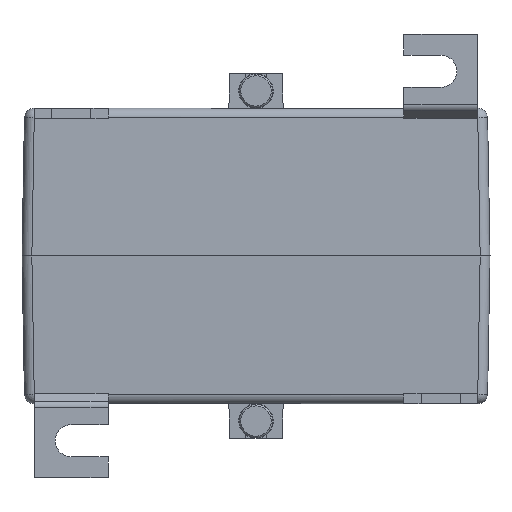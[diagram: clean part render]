
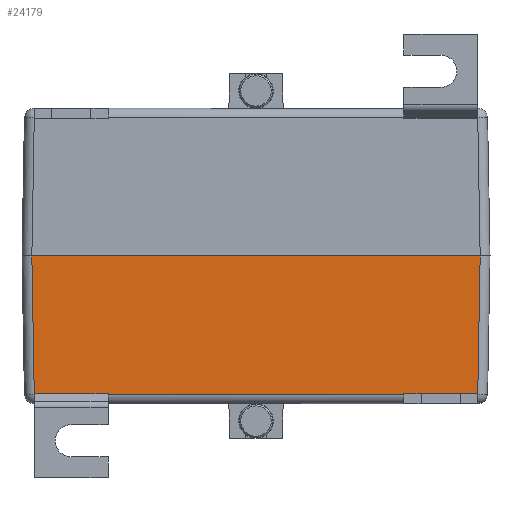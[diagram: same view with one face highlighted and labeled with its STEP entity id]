
A CAD part, front view. The second image highlights one B-rep face of the part: STEP entity #24179.
In plain terms, the highlighted planar face has unit normal (0, -1, -0.018) as drawn and (0, -1, 0.017) by its records, which use the part's own axes.
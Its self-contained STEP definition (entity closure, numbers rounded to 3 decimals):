
#4019 = DIRECTION ( 'NONE',  ( -1., 0., 0. ) ) ;
#4023 = VECTOR ( 'NONE', #4019, 1000. ) ;
#4171 = DIRECTION ( 'NONE',  ( -1., 0., 0. ) ) ;
#4172 = VECTOR ( 'NONE', #4171, 1000. ) ;
#4174 = CARTESIAN_POINT ( 'NONE',  ( -47.5, -49.511, 28.035 ) ) ;
#4181 = LINE ( 'NONE', #4174, #4172 ) ;
#4243 = CARTESIAN_POINT ( 'NONE',  ( -47.5, -49.511, 28.035 ) ) ;
#4244 = LINE ( 'NONE', #4243, #4023 ) ;
#4276 = CARTESIAN_POINT ( 'NONE',  ( 30.017, -49.511, 28.035 ) ) ;
#4296 = CARTESIAN_POINT ( 'NONE',  ( 45.011, -49.511, 28.035 ) ) ;
#4335 = CARTESIAN_POINT ( 'NONE',  ( -30.017, -49.511, 28.035 ) ) ;
#4341 = CARTESIAN_POINT ( 'NONE',  ( 44.983, -49.511, 28.035 ) ) ;
#10690 = EDGE_CURVE ( 'NONE', #10735, #10761, #4181, .T. ) ;
#10718 = EDGE_CURVE ( 'NONE', #10720, #10769, #4244, .T. ) ;
#10720 = VERTEX_POINT ( 'NONE', #4276 ) ;
#10735 = VERTEX_POINT ( 'NONE', #4296 ) ;
#10761 = VERTEX_POINT ( 'NONE', #4341 ) ;
#10769 = VERTEX_POINT ( 'NONE', #4335 ) ;
#15613 = DIRECTION ( 'NONE',  ( -0.009, -0.017, -1. ) ) ;
#15614 = VECTOR ( 'NONE', #15613, 1000. ) ;
#15615 = CARTESIAN_POINT ( 'NONE',  ( 44.731, -50.014, -0.805 ) ) ;
#15616 = LINE ( 'NONE', #15615, #15614 ) ;
#15618 = CARTESIAN_POINT ( 'NONE',  ( 44.982, -49.511, 27.988 ) ) ;
#15624 = CARTESIAN_POINT ( 'NONE',  ( 30.018, -49.511, 27.988 ) ) ;
#15631 = CARTESIAN_POINT ( 'NONE',  ( -30.018, -49.511, 27.988 ) ) ;
#15633 = CARTESIAN_POINT ( 'NONE',  ( -45.011, -49.511, 28.035 ) ) ;
#15670 = CARTESIAN_POINT ( 'NONE',  ( 45.472, -49.972, 1.622 ) ) ;
#15671 = LINE ( 'NONE', #15670, #15721 ) ;
#15706 = CARTESIAN_POINT ( 'NONE',  ( -47.5, -49.511, 27.988 ) ) ;
#15707 = LINE ( 'NONE', #15706, #15753 ) ;
#15714 = CARTESIAN_POINT ( 'NONE',  ( -44.983, -49.511, 28.035 ) ) ;
#15720 = DIRECTION ( 'NONE',  ( -0.017, 0.017, 1. ) ) ;
#15721 = VECTOR ( 'NONE', #15720, 1000. ) ;
#15722 = LINE ( 'NONE', #15750, #15749 ) ;
#15723 = CARTESIAN_POINT ( 'NONE',  ( -30.263, -50.003, -0.15 ) ) ;
#15724 = LINE ( 'NONE', #15723, #15782 ) ;
#15725 = DIRECTION ( 'NONE',  ( -0.009, 0.017, 1. ) ) ;
#15726 = VECTOR ( 'NONE', #15725, 1000. ) ;
#15727 = CARTESIAN_POINT ( 'NONE',  ( 30.256, -49.988, 0.678 ) ) ;
#15728 = LINE ( 'NONE', #15727, #15726 ) ;
#15729 = DIRECTION ( 'NONE',  ( -1., 0., 0. ) ) ;
#15730 = VECTOR ( 'NONE', #15729, 1000. ) ;
#15731 = CARTESIAN_POINT ( 'NONE',  ( -47.5, -49.511, 27.988 ) ) ;
#15732 = CARTESIAN_POINT ( 'NONE',  ( -44.982, -49.511, 27.988 ) ) ;
#15733 = DIRECTION ( 'NONE',  ( 0., -0.017, -1. ) ) ;
#15734 = DIRECTION ( 'NONE',  ( 0., -1., 0.017 ) ) ;
#15735 = PLANE ( 'NONE',  #15742 ) ;
#15736 = LINE ( 'NONE', #15731, #15730 ) ;
#15737 = DIRECTION ( 'NONE',  ( -0.017, -0.017, -1. ) ) ;
#15738 = VECTOR ( 'NONE', #15737, 1000. ) ;
#15739 = CARTESIAN_POINT ( 'NONE',  ( -45.501, -50.001, -0.035 ) ) ;
#15740 = LINE ( 'NONE', #15739, #15738 ) ;
#15742 = AXIS2_PLACEMENT_3D ( 'NONE', #15747, #15734, #15733 ) ;
#15743 = DIRECTION ( 'NONE',  ( -1., 0., 0. ) ) ;
#15744 = VECTOR ( 'NONE', #15743, 1000. ) ;
#15745 = CARTESIAN_POINT ( 'NONE',  ( -47.5, -49.511, 28.035 ) ) ;
#15746 = LINE ( 'NONE', #15745, #15744 ) ;
#15747 = CARTESIAN_POINT ( 'NONE',  ( -47.5, -50., 0. ) ) ;
#15748 = DIRECTION ( 'NONE',  ( -0.009, 0.017, 1. ) ) ;
#15749 = VECTOR ( 'NONE', #15748, 1000. ) ;
#15750 = CARTESIAN_POINT ( 'NONE',  ( -44.738, -50., 0.024 ) ) ;
#15752 = DIRECTION ( 'NONE',  ( -1., 0., 0. ) ) ;
#15753 = VECTOR ( 'NONE', #15752, 1000. ) ;
#15754 = FACE_OUTER_BOUND ( 'NONE', #24078, .T. ) ;
#15781 = DIRECTION ( 'NONE',  ( -0.009, -0.017, -1. ) ) ;
#15782 = VECTOR ( 'NONE', #15781, 1000. ) ;
#22238 = CARTESIAN_POINT ( 'NONE',  ( -45.5, -50., 0. ) ) ;
#22480 = DIRECTION ( 'NONE',  ( 1., 0., 0. ) ) ;
#22482 = VECTOR ( 'NONE', #22480, 1000. ) ;
#22488 = CARTESIAN_POINT ( 'NONE',  ( -47.5, -50., 0. ) ) ;
#22489 = LINE ( 'NONE', #22488, #22482 ) ;
#22545 = CARTESIAN_POINT ( 'NONE',  ( 45.5, -50., 0. ) ) ;
#24069 = ORIENTED_EDGE ( 'NONE', *, *, #24183, .T. ) ;
#24073 = VERTEX_POINT ( 'NONE', #15633 ) ;
#24078 = EDGE_LOOP ( 'NONE', ( #24181, #24111, #24069, #24182, #24180, #24168, #24171, #24174, #24186, #24152, #24176, #24156 ) ) ;
#24083 = VERTEX_POINT ( 'NONE', #15631 ) ;
#24088 = VERTEX_POINT ( 'NONE', #15624 ) ;
#24090 = EDGE_CURVE ( 'NONE', #10761, #24091, #15616, .T. ) ;
#24091 = VERTEX_POINT ( 'NONE', #15618 ) ;
#24111 = ORIENTED_EDGE ( 'NONE', *, *, #24090, .T. ) ;
#24152 = ORIENTED_EDGE ( 'NONE', *, *, #24177, .T. ) ;
#24155 = EDGE_CURVE ( 'NONE', #26728, #10735, #15671, .T. ) ;
#24156 = ORIENTED_EDGE ( 'NONE', *, *, #24155, .T. ) ;
#24167 = VERTEX_POINT ( 'NONE', #15714 ) ;
#24168 = ORIENTED_EDGE ( 'NONE', *, *, #24185, .T. ) ;
#24169 = EDGE_CURVE ( 'NONE', #24083, #24187, #15707, .T. ) ;
#24171 = ORIENTED_EDGE ( 'NONE', *, *, #24169, .T. ) ;
#24172 = EDGE_CURVE ( 'NONE', #24187, #24167, #15722, .T. ) ;
#24174 = ORIENTED_EDGE ( 'NONE', *, *, #24172, .T. ) ;
#24175 = EDGE_CURVE ( 'NONE', #24167, #24073, #15746, .T. ) ;
#24176 = ORIENTED_EDGE ( 'NONE', *, *, #26719, .T. ) ;
#24177 = EDGE_CURVE ( 'NONE', #24073, #26661, #15740, .T. ) ;
#24179 = ADVANCED_FACE ( 'NONE', ( #15754 ), #15735, .T. ) ;
#24180 = ORIENTED_EDGE ( 'NONE', *, *, #10718, .T. ) ;
#24181 = ORIENTED_EDGE ( 'NONE', *, *, #10690, .T. ) ;
#24182 = ORIENTED_EDGE ( 'NONE', *, *, #24184, .T. ) ;
#24183 = EDGE_CURVE ( 'NONE', #24091, #24088, #15736, .T. ) ;
#24184 = EDGE_CURVE ( 'NONE', #24088, #10720, #15728, .T. ) ;
#24185 = EDGE_CURVE ( 'NONE', #10769, #24083, #15724, .T. ) ;
#24186 = ORIENTED_EDGE ( 'NONE', *, *, #24175, .T. ) ;
#24187 = VERTEX_POINT ( 'NONE', #15732 ) ;
#26661 = VERTEX_POINT ( 'NONE', #22238 ) ;
#26719 = EDGE_CURVE ( 'NONE', #26661, #26728, #22489, .T. ) ;
#26728 = VERTEX_POINT ( 'NONE', #22545 ) ;
